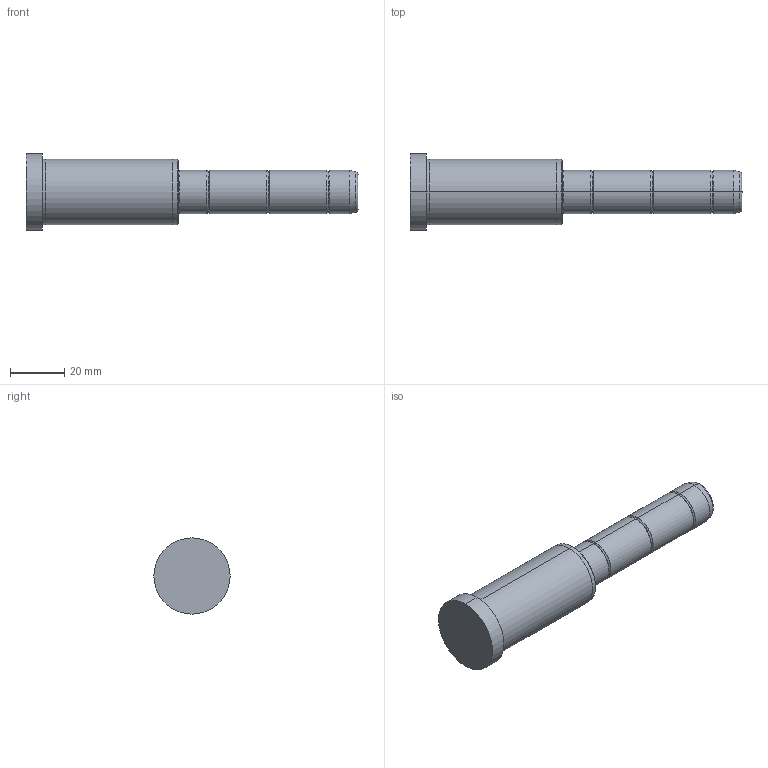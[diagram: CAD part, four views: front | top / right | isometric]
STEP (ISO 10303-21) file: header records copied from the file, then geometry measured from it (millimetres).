
FILE_DESCRIPTION( ( 'STEP AP203' ), '1' );
FILE_NAME( 'D:/Delta 3 D/D02/16/D02 - 16x56x66.step', '2003-01-04T13:10:17', ( ' ' ), ( ' ' ), 'XStep 1.0', ' ', ' ' );
FILE_SCHEMA( ( 'CONFIG_CONTROL_DESIGN' ) );
Length unit declared in the file: metre
Products named in the file (1): 1
Bounding box: 122 x 28 x 28 mm (x, y, z)
Volume: 39491.7 mm3; surface area: 8843.4 mm2
Topology: 1 solids, 1 shells, 42 faces, 82 edges, 46 vertices
Faces by surface type: bspline 22, revolution 20
Entity records: 1325 total; most frequent: CARTESIAN_POINT 517, ORIENTED_EDGE 164, DIRECTION 134, EDGE_CURVE 82, AXIS2_PLACEMENT_3D 47, EDGE_LOOP 46, VERTEX_POINT 46, CIRCLE 46
